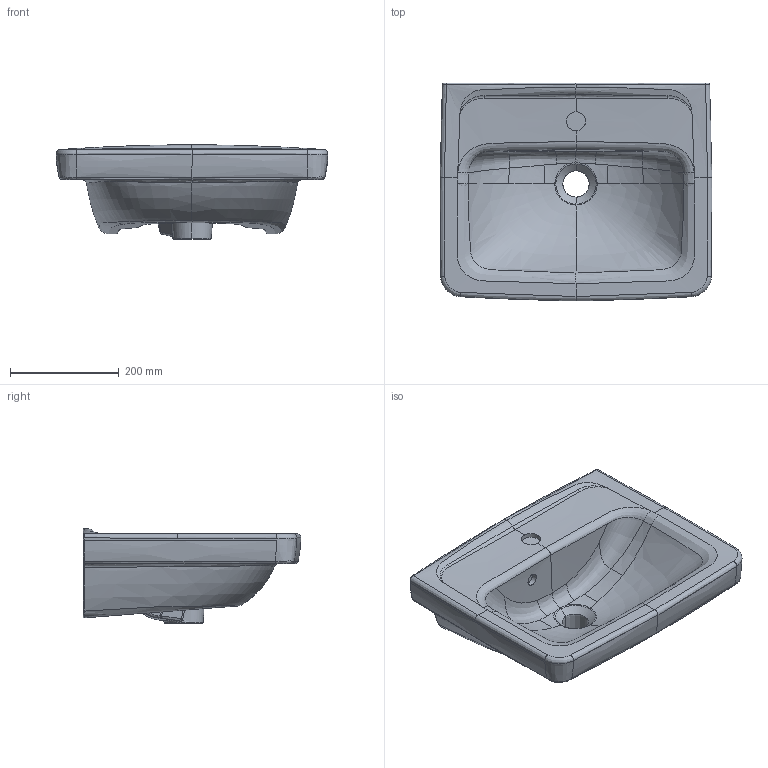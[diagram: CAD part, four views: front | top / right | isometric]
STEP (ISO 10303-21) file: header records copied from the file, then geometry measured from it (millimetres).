
FILE_DESCRIPTION(/* description */ (''),/* implementation_level */ '2;1');
FILE_NAME(/* name */ '439250.stp',/* time_stamp */ '2021-05-27T13:20:05+02:00',/* author */ (''),/* organization */ (''),/* preprocessor_version */ 'ST-DEVELOPER v16.7',/* originating_system */ 'SIEMENS PLM Software NX 1863',/* authorisation */ '');
FILE_SCHEMA (('AUTOMOTIVE_DESIGN { 1 0 10303 214 3 1 1 1 }'));
Products named in the file (1): koeb394416B3riqu
Bounding box: 499.35 x 400.03 x 173.66 mm (x, y, z)
Volume: 12031677.5 mm3; surface area: 633119.8 mm2
Topology: 1 solids, 1 shells, 265 faces, 679 edges, 410 vertices
Faces by surface type: bspline 202, plane 25, cylinder 19, extrusion 9, sphere 4, torus 4, cone 2
Entity records: 74583 total; most frequent: CARTESIAN_POINT 69915, ORIENTED_EDGE 1338, EDGE_CURVE 669, B_SPLINE_CURVE_WITH_KNOTS 498, VERTEX_POINT 409, DIRECTION 389, EDGE_LOOP 270, ADVANCED_FACE 265
